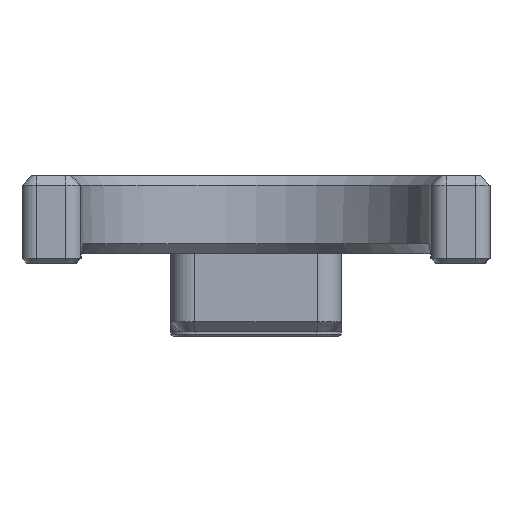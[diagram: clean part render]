
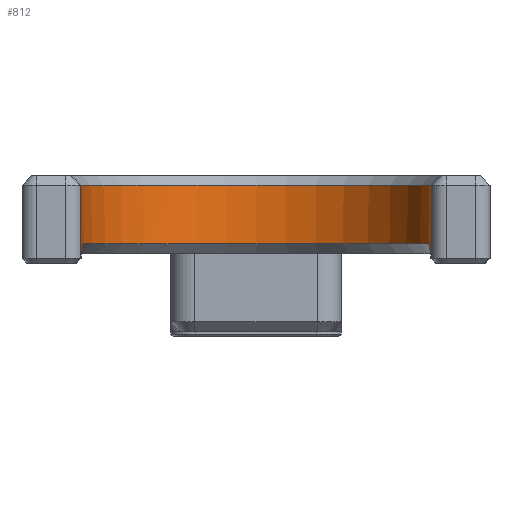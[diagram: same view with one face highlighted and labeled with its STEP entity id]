
A CAD part, front view. The second image highlights one B-rep face of the part: STEP entity #812.
In plain terms, the highlighted cylindrical face has radius 36 mm (diameter 72 mm), a partial arc.
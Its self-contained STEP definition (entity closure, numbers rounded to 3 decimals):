
#235=CYLINDRICAL_SURFACE('',#3790,36.);
#362=CIRCLE('',#3740,36.);
#367=CIRCLE('',#3752,36.);
#373=CIRCLE('',#3761,36.);
#376=CIRCLE('',#3766,36.);
#385=CIRCLE('',#3788,36.);
#386=CIRCLE('',#3789,36.);
#503=LINE('',#4998,#661);
#505=LINE('',#5002,#663);
#506=LINE('',#5020,#664);
#507=LINE('',#5021,#665);
#661=VECTOR('',#4157,1.);
#663=VECTOR('',#4161,1.);
#664=VECTOR('',#4164,1.);
#665=VECTOR('',#4165,1.);
#812=ADVANCED_FACE('',(#1062),#235,.F.);
#1062=FACE_OUTER_BOUND('',#1208,.T.);
#1208=EDGE_LOOP('',(#1516,#1517,#1518,#1519,#1520,#1521,#1522,#1523,#1524,
#1525,#1526,#1527));
#1516=ORIENTED_EDGE('',*,*,#2999,.T.);
#1517=ORIENTED_EDGE('',*,*,#2929,.T.);
#1518=ORIENTED_EDGE('',*,*,#3001,.F.);
#1519=ORIENTED_EDGE('',*,*,#2971,.T.);
#1520=ORIENTED_EDGE('',*,*,#3002,.F.);
#1521=ORIENTED_EDGE('',*,*,#3003,.F.);
#1522=ORIENTED_EDGE('',*,*,#3004,.F.);
#1523=ORIENTED_EDGE('',*,*,#2967,.T.);
#1524=ORIENTED_EDGE('',*,*,#3005,.F.);
#1525=ORIENTED_EDGE('',*,*,#2956,.T.);
#1526=ORIENTED_EDGE('',*,*,#3006,.F.);
#1527=ORIENTED_EDGE('',*,*,#3007,.F.);
#2487=VERTEX_POINT('',#4754);
#2488=VERTEX_POINT('',#4758);
#2510=VERTEX_POINT('',#4852);
#2512=VERTEX_POINT('',#4858);
#2519=VERTEX_POINT('',#4877);
#2520=VERTEX_POINT('',#4879);
#2522=VERTEX_POINT('',#4887);
#2524=VERTEX_POINT('',#4890);
#2544=VERTEX_POINT('',#4999);
#2545=VERTEX_POINT('',#5011);
#2546=VERTEX_POINT('',#5013);
#2547=VERTEX_POINT('',#5022);
#2929=EDGE_CURVE('',#2487,#2488,#362,.T.);
#2956=EDGE_CURVE('',#2512,#2510,#367,.T.);
#2967=EDGE_CURVE('',#2519,#2520,#373,.T.);
#2971=EDGE_CURVE('',#2524,#2522,#376,.T.);
#2999=EDGE_CURVE('',#2544,#2487,#503,.T.);
#3001=EDGE_CURVE('',#2524,#2488,#505,.T.);
#3002=EDGE_CURVE('',#2545,#2522,#3474,.T.);
#3003=EDGE_CURVE('',#2546,#2545,#385,.T.);
#3004=EDGE_CURVE('',#2519,#2546,#3475,.T.);
#3005=EDGE_CURVE('',#2512,#2520,#506,.T.);
#3006=EDGE_CURVE('',#2547,#2510,#507,.T.);
#3007=EDGE_CURVE('',#2544,#2547,#386,.T.);
#3474=B_SPLINE_CURVE_WITH_KNOTS('',3,(#5003,#5004,#5005,#5006,#5007,#5008,
#5009,#5010),.UNSPECIFIED.,.F.,.F.,(4,2,2,4),(0.,0.25,0.5,
1.),.UNSPECIFIED.);
#3475=B_SPLINE_CURVE_WITH_KNOTS('',3,(#5014,#5015,#5016,#5017,#5018,#5019),
 .UNSPECIFIED.,.F.,.F.,(4,2,4),(0.,0.5,1.),.UNSPECIFIED.);
#3740=AXIS2_PLACEMENT_3D('',#4759,#4038,#4039);
#3752=AXIS2_PLACEMENT_3D('',#4857,#4071,#4072);
#3761=AXIS2_PLACEMENT_3D('',#4880,#4094,#4095);
#3766=AXIS2_PLACEMENT_3D('',#4889,#4105,#4106);
#3788=AXIS2_PLACEMENT_3D('',#5012,#4162,#4163);
#3789=AXIS2_PLACEMENT_3D('',#5023,#4166,#4167);
#3790=AXIS2_PLACEMENT_3D('',#5024,#4168,#4169);
#4038=DIRECTION('',(0.,0.,-1.));
#4039=DIRECTION('',(-1.,0.,0.));
#4071=DIRECTION('',(0.,0.,-1.));
#4072=DIRECTION('',(1.,0.,0.));
#4094=DIRECTION('',(0.,0.,-1.));
#4095=DIRECTION('',(0.,1.,0.));
#4105=DIRECTION('',(0.,0.,-1.));
#4106=DIRECTION('',(0.,1.,0.));
#4157=DIRECTION('',(0.,0.,-1.));
#4161=DIRECTION('',(0.,0.,-1.));
#4162=DIRECTION('',(0.,0.,1.));
#4163=DIRECTION('',(-1.,0.,0.));
#4164=DIRECTION('',(0.,0.,1.));
#4165=DIRECTION('',(0.,0.,-1.));
#4166=DIRECTION('',(0.,0.,-1.));
#4167=DIRECTION('',(1.,0.,0.));
#4168=DIRECTION('',(0.,0.,-1.));
#4169=DIRECTION('',(-1.,0.,0.));
#4754=CARTESIAN_POINT('',(-36.,0.,16.));
#4758=CARTESIAN_POINT('',(-35.888,2.842,16.));
#4759=CARTESIAN_POINT('',(0.,0.,16.));
#4852=CARTESIAN_POINT('',(36.,0.,16.));
#4857=CARTESIAN_POINT('',(0.,0.,16.));
#4858=CARTESIAN_POINT('',(35.888,2.842,16.));
#4877=CARTESIAN_POINT('',(35.786,3.919,17.));
#4879=CARTESIAN_POINT('',(35.888,2.842,17.));
#4880=CARTESIAN_POINT('',(0.,0.,17.));
#4887=CARTESIAN_POINT('',(-35.786,3.919,17.));
#4889=CARTESIAN_POINT('',(0.,0.,17.));
#4890=CARTESIAN_POINT('',(-35.888,2.842,17.));
#4998=CARTESIAN_POINT('',(-36.,0.,33.));
#4999=CARTESIAN_POINT('',(-36.,0.,31.));
#5002=CARTESIAN_POINT('',(-35.888,2.842,33.));
#5003=CARTESIAN_POINT('',(-35.361,6.755,19.));
#5004=CARTESIAN_POINT('',(-35.418,6.456,19.));
#5005=CARTESIAN_POINT('',(-35.467,6.179,18.861));
#5006=CARTESIAN_POINT('',(-35.549,5.688,18.549));
#5007=CARTESIAN_POINT('',(-35.584,5.459,18.367));
#5008=CARTESIAN_POINT('',(-35.684,4.782,17.803));
#5009=CARTESIAN_POINT('',(-35.739,4.349,17.403));
#5010=CARTESIAN_POINT('',(-35.786,3.919,17.));
#5011=CARTESIAN_POINT('',(-35.361,6.755,19.));
#5012=CARTESIAN_POINT('',(0.,0.,19.));
#5013=CARTESIAN_POINT('',(35.361,6.755,19.));
#5014=CARTESIAN_POINT('',(35.786,3.919,17.));
#5015=CARTESIAN_POINT('',(35.739,4.35,17.403));
#5016=CARTESIAN_POINT('',(35.684,4.782,17.803));
#5017=CARTESIAN_POINT('',(35.551,5.686,18.556));
#5018=CARTESIAN_POINT('',(35.473,6.164,19.));
#5019=CARTESIAN_POINT('',(35.361,6.755,19.));
#5020=CARTESIAN_POINT('',(35.888,2.842,33.));
#5021=CARTESIAN_POINT('',(36.,0.,33.));
#5022=CARTESIAN_POINT('',(36.,0.,31.));
#5023=CARTESIAN_POINT('',(0.,0.,31.));
#5024=CARTESIAN_POINT('',(0.,0.,33.));
